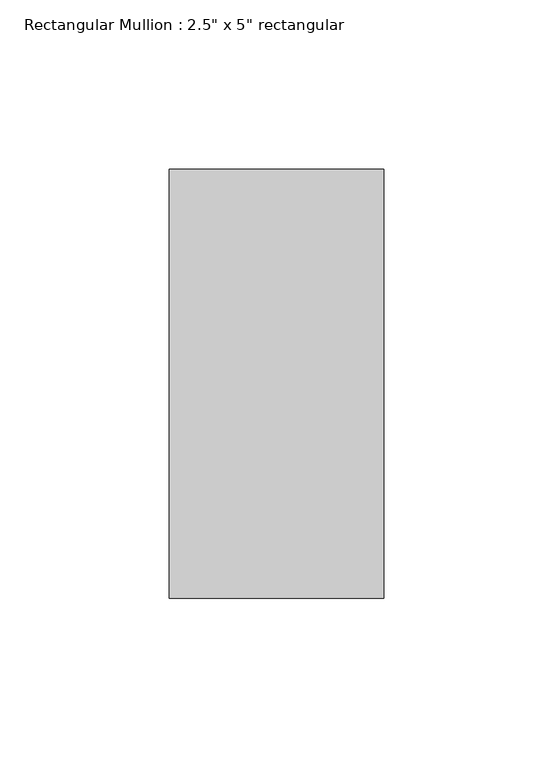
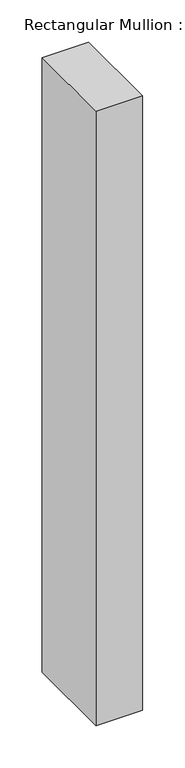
"""IFC4 building model written with IfcOpenShell, lengths in millimetres: member geometry."""

from ifc_helpers import new_model, si_unit, frame, origin, place, context, project, spatial, polyline, outline, extrude, source, transform, mapped, element, save


def member_ae2b344b(model_context):
    return source(origin(), model_context, "Body", "SweptSolid", [
        extrude(outline(polyline([(31.75, 63.5), (31.75, -63.5), (-31.75, -63.5), (-31.75, 63.5), (31.75, 63.5)])), frame((0.0, 0.0, -884.7838063), z_axis=(0.0, 0.0, 1.0), x_axis=(1.0, 0.0, 0.0)), (0.0, 0.0, 1.0), 884.7838063),
    ])


if __name__ == "__main__":
    model = new_model("IFC4")
    model_context = context("Model", 3, world=origin())
    ifc_project = project(units=[si_unit("LENGTHUNIT", "METRE", prefix="MILLI")], contexts=[model_context])
    site = spatial("IfcSite", under=ifc_project)
    building = spatial("IfcBuilding", under=site)
    placement = place(None, origin())
    member_shape = member_ae2b344b(model_context)
    element("IfcMember", 1, ObjectType="Rectangular Mullion : 2.5\" x 5\" rectangular", at=placement, inside=building, context=model_context, shape_type="MappedRepresentation", body=[
        mapped(member_shape, transform((0.0, 0.0, 0.0), x_axis=(1.0, 0.0, 0.0), y_axis=(0.0, 1.0, 0.0), z_axis=(0.0, 0.0, 1.0))),
    ])
    save(model, "model.ifc")
